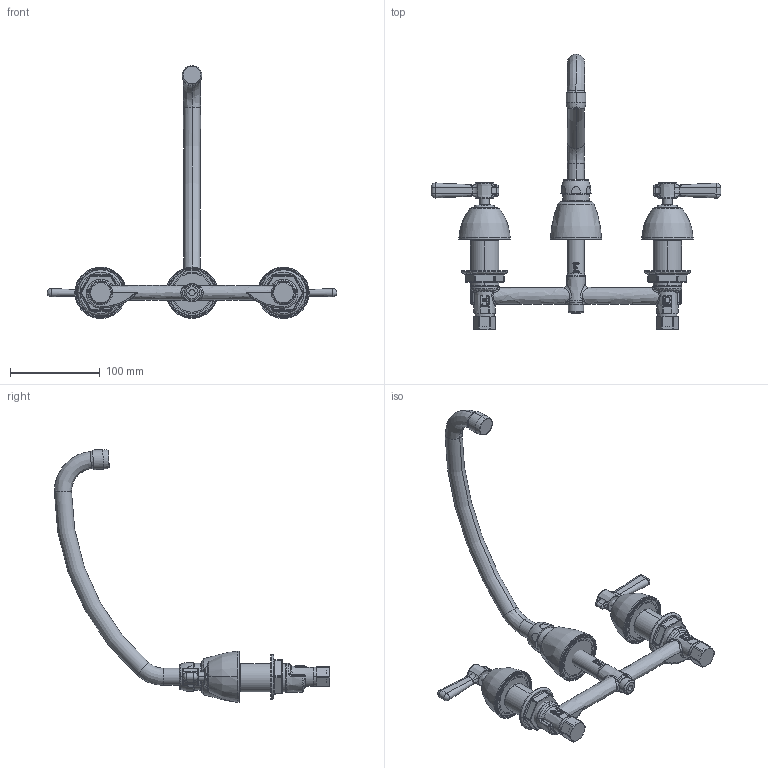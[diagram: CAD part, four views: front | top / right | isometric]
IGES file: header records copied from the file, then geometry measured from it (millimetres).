
Start section:  PTC IGES file: 201-ACP_REV052711.igs
Global section: file name: 201-ACP_REV052711.igs; native system: Pro/ENGINEER by Parametric Technology Corporation; preprocessor: 2010230; author: sdmitruk; organization: Unknown; date: 20110527.084121; units: inch
Bounding box: 322.07 x 306.02 x 281.12 mm (x, y, z)
Surface area: 125832.1 mm2 (no closed solid volume)
Topology: 0 solids, 0 shells, 795 faces, 5458 edges, 7236 vertices
Faces by surface type: bspline 406, revolution 389
